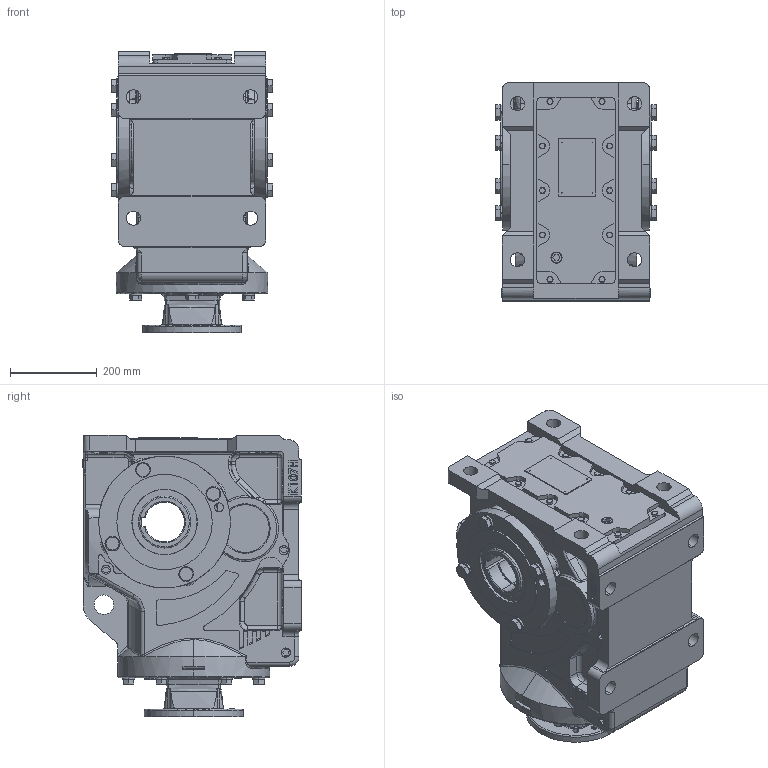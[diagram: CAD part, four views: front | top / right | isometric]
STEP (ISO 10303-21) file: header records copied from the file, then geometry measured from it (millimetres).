
FILE_DESCRIPTION (( 'STEP AP203' ), '1' );
FILE_NAME ('KHN107-213T.STEP', '2023-02-15T07:15:16', ( '' ), ( '' ), 'SwSTEP 2.0', 'SolidWorks 2012', '' );
FILE_SCHEMA (( 'CONFIG_CONTROL_DESIGN' ));
Products named in the file (1): KHN107-213T
Bounding box: 373.2 x 503.5 x 649 mm (x, y, z)
Volume: 68324341.2 mm3; surface area: 1879216.7 mm2
Topology: 1 solids, 48 shells, 2148 faces, 5373 edges, 3371 vertices
Faces by surface type: plane 955, cylinder 587, bspline 329, cone 277
Entity records: 86098 total; most frequent: CARTESIAN_POINT 36833, ORIENTED_EDGE 10626, DIRECTION 9668, EDGE_CURVE 5313, AXIS2_PLACEMENT_3D 3508, VERTEX_POINT 3371, LINE 2652, VECTOR 2652
